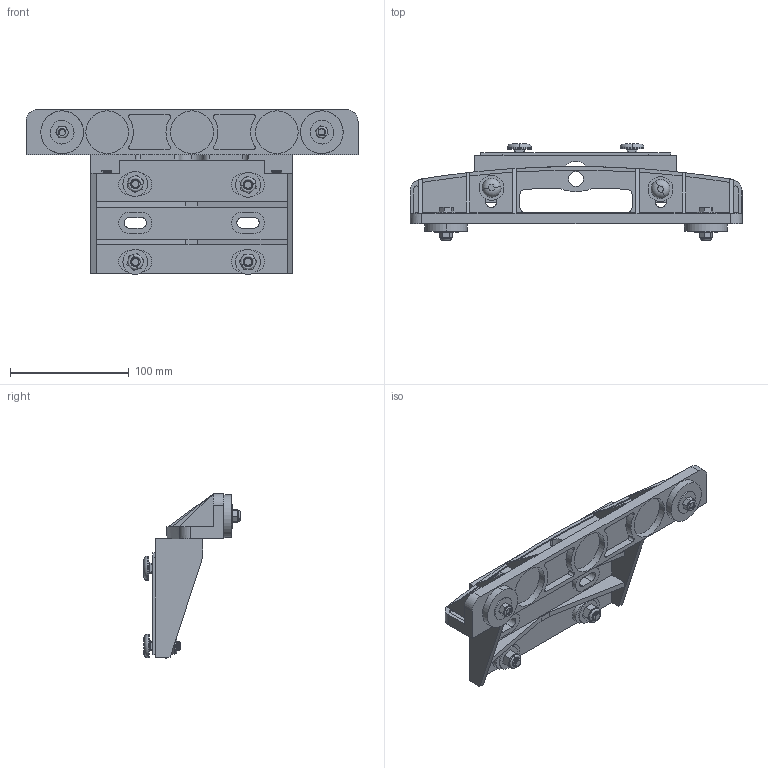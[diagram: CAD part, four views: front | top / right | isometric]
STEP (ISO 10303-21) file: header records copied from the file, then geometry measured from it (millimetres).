
FILE_DESCRIPTION (( 'STEP AP214' ), '1' );
FILE_NAME ('Footpack.STEP', '2017-11-13T09:13:54', ( '' ), ( '' ), 'SwSTEP 2.0', 'SolidWorks 2018', '' );
FILE_SCHEMA (( 'AUTOMOTIVE_DESIGN' ));
Length unit declared in the file: millimetre
Products named in the file (13): m8x25; M6x25_set_screw; stand4; M8x25 Coachbolt; Stand3; m6_nyloc; m8_nyloc; Rubber Pad; M8x21 Washer; Rubber boot; Tinnerman Nut; Footpack; M6x20_washer
Assembly tree (31 placements, depth 2):
  Footpack
    stand4
    Stand3
    m8x25  x2
    Tinnerman Nut  x2
    M8x25 Coachbolt  x4
    M6x25_set_screw  x2
    M6x20_washer  x4
    M8x21 Washer  x6
    m8_nyloc  x4
    m6_nyloc  x2
    Rubber boot  x2
    Rubber Pad
Bounding box: 280 x 81.03 x 138.89 mm (x, y, z)
Volume: 337242.8 mm3; surface area: 179371.1 mm2
Topology: 33 solids, 33 shells, 925 faces, 2381 edges, 1540 vertices
Faces by surface type: cylinder 488, plane 336, torus 56, bspline 27, cone 18
Entity records: 25038 total; most frequent: CARTESIAN_POINT 11959, ORIENTED_EDGE 2696, DIRECTION 2541, EDGE_CURVE 1348, AXIS2_PLACEMENT_3D 880, VERTEX_POINT 878, LINE 781, VECTOR 781
